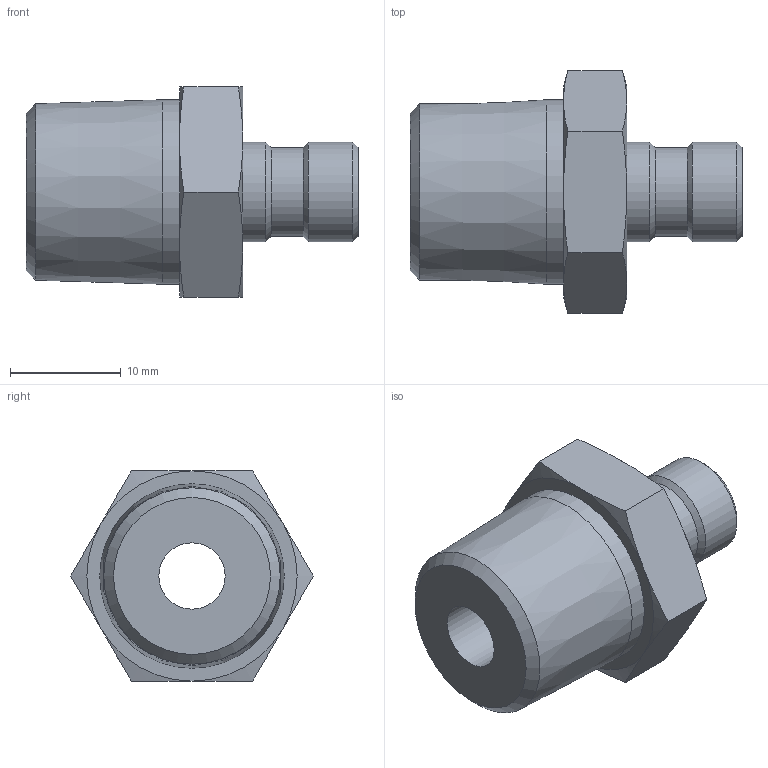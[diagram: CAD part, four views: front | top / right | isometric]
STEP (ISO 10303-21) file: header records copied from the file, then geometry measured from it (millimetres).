
FILE_DESCRIPTION(/* description */ ('STEP AP214'),/* implementation_level */ '2;1');
FILE_NAME(/* name */ 'N638A',/* time_stamp */ '2024-12-19T09:29:31+01:00',/* author */ ('License CC BY-ND 4.0'),/* organization */ ('CADENAS'),/* preprocessor_version */ 'ST-DEVELOPER v19.3',/* originating_system */ 'PARTsolutions',/* authorisation */ ' ');
FILE_SCHEMA (('AUTOMOTIVE_DESIGN {1 0 10303 214 3 1 1}'));
Length unit declared in the file: millimetre
Products named in the file (1): N638A
Bounding box: 30 x 21.94 x 19 mm (x, y, z)
Volume: 4431.4 mm3; surface area: 2447.5 mm2
Topology: 1 solids, 1 shells, 32 faces, 65 edges, 37 vertices
Faces by surface type: cone 17, plane 10, cylinder 5
Full cylindrical faces by diameter (mm): 6 x1, 8.04 x1, 9 x2, 16.662 x1
Entity records: 830 total; most frequent: CARTESIAN_POINT 197, DIRECTION 122, ORIENTED_EDGE 110, AXIS2_PLACEMENT_3D 58, EDGE_CURVE 55, EDGE_LOOP 46, FACE_BOUND 46, VERTEX_POINT 37
